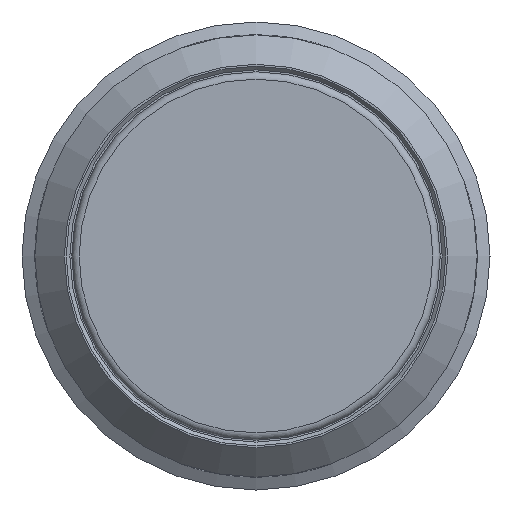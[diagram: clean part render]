
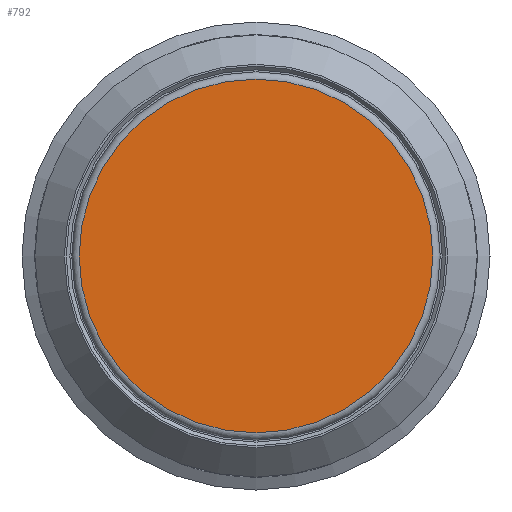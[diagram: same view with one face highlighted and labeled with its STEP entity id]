
A CAD part, left-side view. The second image highlights one B-rep face of the part: STEP entity #792.
In plain terms, the highlighted planar face has unit normal (-1, 0, 0).
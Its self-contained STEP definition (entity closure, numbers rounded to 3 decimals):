
#136=PLANE('',#859);
#188=FACE_OUTER_BOUND('',#241,.T.);
#241=EDGE_LOOP('',(#565));
#329=CIRCLE('',#857,4.8);
#372=VERTEX_POINT('',#1132);
#458=EDGE_CURVE('',#372,#372,#329,.T.);
#565=ORIENTED_EDGE('',*,*,#458,.T.);
#792=ADVANCED_FACE('',(#188),#136,.F.);
#857=AXIS2_PLACEMENT_3D('',#1133,#943,#944);
#859=AXIS2_PLACEMENT_3D('',#1136,#947,#948);
#943=DIRECTION('center_axis',(-1.,0.,0.));
#944=DIRECTION('ref_axis',(0.,1.,0.));
#947=DIRECTION('center_axis',(1.,0.,0.));
#948=DIRECTION('ref_axis',(0.,-1.,0.));
#1132=CARTESIAN_POINT('',(0.,-4.8,0.));
#1133=CARTESIAN_POINT('Origin',(0.,0.,0.));
#1136=CARTESIAN_POINT('Origin',(0.,0.,0.));
